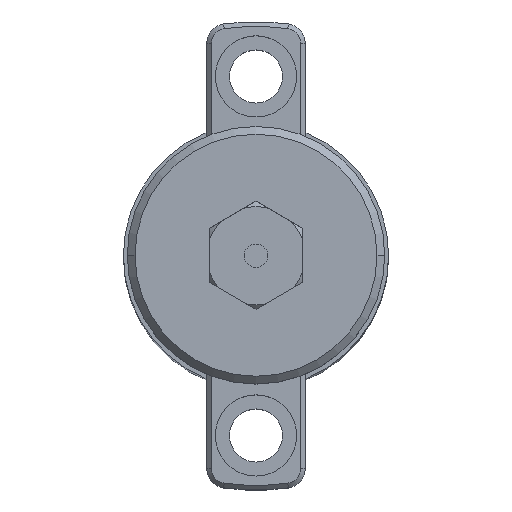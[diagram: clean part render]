
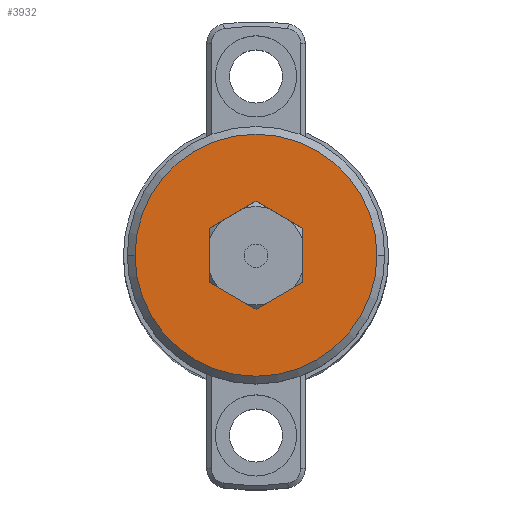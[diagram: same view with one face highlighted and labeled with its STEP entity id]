
A CAD part, top view. The second image highlights one B-rep face of the part: STEP entity #3932.
In plain terms, the highlighted planar face has unit normal (0, 0, 1).
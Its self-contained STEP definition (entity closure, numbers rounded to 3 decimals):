
#393 = DIRECTION ( 'NONE',  ( 0., 0., 1. ) ) ;
#398 = EDGE_LOOP ( 'NONE', ( #11336, #12753 ) ) ;
#436 = VECTOR ( 'NONE', #16356, 1000. ) ;
#549 = DIRECTION ( 'NONE',  ( 0., 1., 0. ) ) ;
#627 = EDGE_CURVE ( 'NONE', #8741, #10737, #891, .T. ) ;
#841 = VECTOR ( 'NONE', #10706, 1000. ) ;
#862 = VERTEX_POINT ( 'NONE', #4384 ) ;
#891 = LINE ( 'NONE', #10776, #4299 ) ;
#1224 = CARTESIAN_POINT ( 'NONE',  ( 0., -6.928, 0. ) ) ;
#1438 = LINE ( 'NONE', #9946, #7418 ) ;
#1515 = VERTEX_POINT ( 'NONE', #2642 ) ;
#1772 = CARTESIAN_POINT ( 'NONE',  ( -6., 3.464, 0. ) ) ;
#2281 = DIRECTION ( 'NONE',  ( -0.866, -0.5, 0. ) ) ;
#2292 = ORIENTED_EDGE ( 'NONE', *, *, #4027, .F. ) ;
#2458 = ORIENTED_EDGE ( 'NONE', *, *, #15602, .F. ) ;
#2642 = CARTESIAN_POINT ( 'NONE',  ( -6., -3.464, 0. ) ) ;
#3060 = CARTESIAN_POINT ( 'NONE',  ( 6., -3.464, 0. ) ) ;
#3506 = ORIENTED_EDGE ( 'NONE', *, *, #6102, .F. ) ;
#3566 = VECTOR ( 'NONE', #14022, 1000. ) ;
#3816 = LINE ( 'NONE', #8743, #436 ) ;
#3932 = ADVANCED_FACE ( 'NONE', ( #14980, #6046 ), #4709, .F. ) ;
#4027 = EDGE_CURVE ( 'NONE', #862, #12651, #1438, .T. ) ;
#4214 = DIRECTION ( 'NONE',  ( 0.866, -0.5, 0. ) ) ;
#4299 = VECTOR ( 'NONE', #549, 1000. ) ;
#4384 = CARTESIAN_POINT ( 'NONE',  ( 0., 6.928, 0. ) ) ;
#4707 = CIRCLE ( 'NONE', #10531, 15.5 ) ;
#4709 = PLANE ( 'NONE',  #10321 ) ;
#4787 = ORIENTED_EDGE ( 'NONE', *, *, #627, .F. ) ;
#5143 = CARTESIAN_POINT ( 'NONE',  ( 6., 3.464, 0. ) ) ;
#5991 = DIRECTION ( 'NONE',  ( 0., 0., -1. ) ) ;
#6046 = FACE_OUTER_BOUND ( 'NONE', #398, .T. ) ;
#6068 = EDGE_LOOP ( 'NONE', ( #2292, #6944, #4787, #3506, #7346, #2458 ) ) ;
#6102 = EDGE_CURVE ( 'NONE', #8147, #8741, #3816, .T. ) ;
#6643 = CARTESIAN_POINT ( 'NONE',  ( -6., 3.464, 0. ) ) ;
#6944 = ORIENTED_EDGE ( 'NONE', *, *, #8429, .F. ) ;
#7261 = CARTESIAN_POINT ( 'NONE',  ( 0., 0., 0. ) ) ;
#7346 = ORIENTED_EDGE ( 'NONE', *, *, #16537, .F. ) ;
#7418 = VECTOR ( 'NONE', #2281, 1000. ) ;
#8039 = CARTESIAN_POINT ( 'NONE',  ( 0., 0., 0. ) ) ;
#8147 = VERTEX_POINT ( 'NONE', #1224 ) ;
#8429 = EDGE_CURVE ( 'NONE', #10737, #862, #13742, .T. ) ;
#8552 = DIRECTION ( 'NONE',  ( 1., 0., 0. ) ) ;
#8741 = VERTEX_POINT ( 'NONE', #3060 ) ;
#8743 = CARTESIAN_POINT ( 'NONE',  ( 0., -6.928, 0. ) ) ;
#9179 = CARTESIAN_POINT ( 'NONE',  ( -15.5, 0., 0. ) ) ;
#9336 = DIRECTION ( 'NONE',  ( 1., 0., 0. ) ) ;
#9761 = LINE ( 'NONE', #13048, #14320 ) ;
#9946 = CARTESIAN_POINT ( 'NONE',  ( 0., 6.928, 0. ) ) ;
#10165 = VERTEX_POINT ( 'NONE', #9179 ) ;
#10321 = AXIS2_PLACEMENT_3D ( 'NONE', #13603, #5991, #14877 ) ;
#10531 = AXIS2_PLACEMENT_3D ( 'NONE', #7261, #16173, #8552 ) ;
#10647 = LINE ( 'NONE', #1772, #841 ) ;
#10706 = DIRECTION ( 'NONE',  ( 0., -1., 0. ) ) ;
#10737 = VERTEX_POINT ( 'NONE', #16527 ) ;
#10776 = CARTESIAN_POINT ( 'NONE',  ( 6., -3.464, 0. ) ) ;
#10880 = CIRCLE ( 'NONE', #15729, 15.5 ) ;
#11336 = ORIENTED_EDGE ( 'NONE', *, *, #13538, .T. ) ;
#11499 = CARTESIAN_POINT ( 'NONE',  ( 15.5, 0., 0. ) ) ;
#12651 = VERTEX_POINT ( 'NONE', #6643 ) ;
#12728 = EDGE_CURVE ( 'NONE', #13141, #10165, #10880, .T. ) ;
#12753 = ORIENTED_EDGE ( 'NONE', *, *, #12728, .T. ) ;
#13048 = CARTESIAN_POINT ( 'NONE',  ( -6., -3.464, 0. ) ) ;
#13141 = VERTEX_POINT ( 'NONE', #11499 ) ;
#13538 = EDGE_CURVE ( 'NONE', #10165, #13141, #4707, .T. ) ;
#13603 = CARTESIAN_POINT ( 'NONE',  ( 0., 15.5, 0. ) ) ;
#13742 = LINE ( 'NONE', #5143, #3566 ) ;
#14022 = DIRECTION ( 'NONE',  ( -0.866, 0.5, 0. ) ) ;
#14320 = VECTOR ( 'NONE', #4214, 1000. ) ;
#14877 = DIRECTION ( 'NONE',  ( -1., 0., 0. ) ) ;
#14980 = FACE_BOUND ( 'NONE', #6068, .T. ) ;
#15602 = EDGE_CURVE ( 'NONE', #12651, #1515, #10647, .T. ) ;
#15729 = AXIS2_PLACEMENT_3D ( 'NONE', #8039, #393, #9336 ) ;
#16173 = DIRECTION ( 'NONE',  ( 0., 0., 1. ) ) ;
#16356 = DIRECTION ( 'NONE',  ( 0.866, 0.5, 0. ) ) ;
#16527 = CARTESIAN_POINT ( 'NONE',  ( 6., 3.464, 0. ) ) ;
#16537 = EDGE_CURVE ( 'NONE', #1515, #8147, #9761, .T. ) ;
